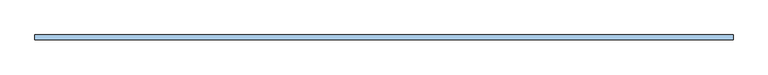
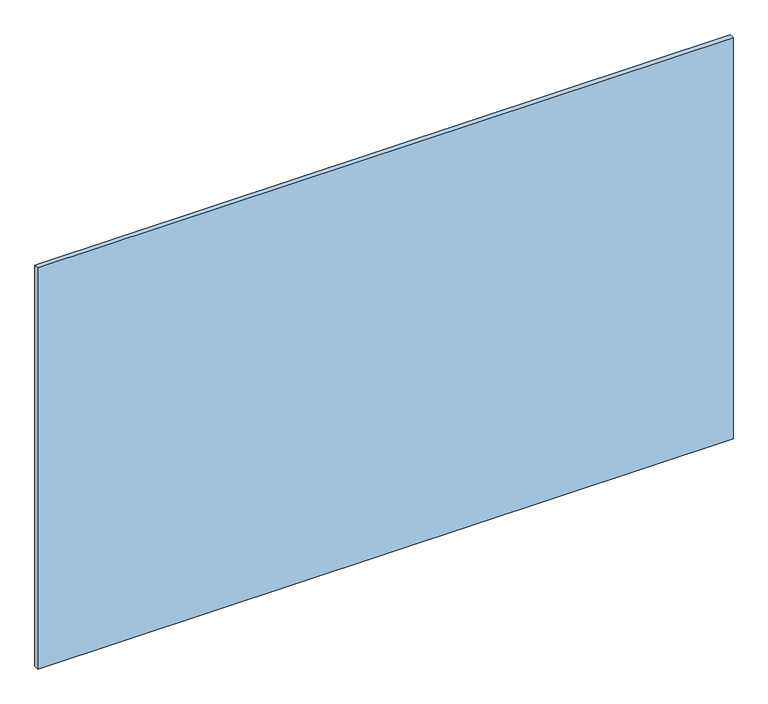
"""IFC4 building model written with IfcOpenShell, lengths in millimetres: window geometry, espejo biselado sin marco : ESP9-espejo biselado 164 x 101."""

from ifc_helpers import new_model, si_unit, origin, origin_with_axes, place, context, project, spatial, polyline, outline, extrude, source, transform, mapped, element, save


def window_c98c8cd7(model_context):
    return source(origin(), model_context, "Body", "SweptSolid", [
        extrude(outline(polyline([(-820.0, 19.0), (-820.0, 30.0), (820.0, 30.0), (820.0, 19.0), (-820.0, 19.0)])), origin_with_axes(), (0.0, 0.0, 1.0), 1000.0),
    ])


if __name__ == "__main__":
    model = new_model("IFC4")
    model_context = context("Model", 3, world=origin())
    ifc_project = project(units=[si_unit("LENGTHUNIT", "METRE", prefix="MILLI")], contexts=[model_context])
    site = spatial("IfcSite", under=ifc_project)
    building = spatial("IfcBuilding", under=site)
    placement = place(None, origin())
    window_shape = window_c98c8cd7(model_context)
    element("IfcWindow", 1, ObjectType="espejo biselado sin marco : ESP9-espejo biselado 164 x 101", at=placement, inside=building, context=model_context, shape_type="MappedRepresentation", body=[
        mapped(window_shape, transform((0.0, 0.0, 0.0), x_axis=(1.0, 0.0, 0.0), y_axis=(0.0, 1.0, 0.0), z_axis=(0.0, 0.0, 1.0))),
    ])
    save(model, "model.ifc")
